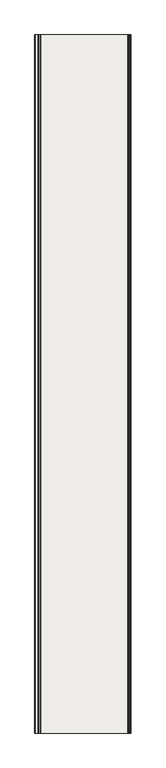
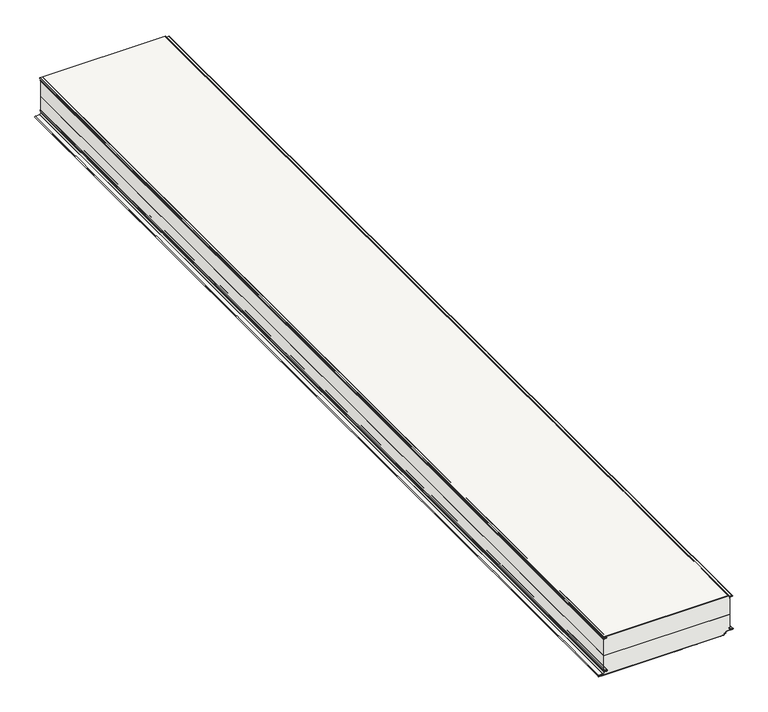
"""IFC4 building model written with IfcOpenShell, lengths in millimetres: covering geometry, Wall sandwich panel SPW-H CORE WOOL (single sheet) : -."""

from ifc_helpers import new_model, si_unit, point, frame, frame_2d, origin, place, context, project, spatial, polyline, circle_curve, trimmed, segment, composite_curve, outline, extrude, source, transform, mapped, element, save
from ifc_brep_helpers import plane_surface, cylinder_surface, revolved_surface, advanced_brep


def covering_b233c857(model_context):
    return source(origin(), model_context, "Body", "SolidModel", [
        extrude(outline(composite_curve([segment(polyline([(-240.0, -775.4098003), (-239.6, -774.0275239), (-239.6, -729.8098003), (-240.0, -728.4275239), (-240.0, -684.2098003), (-239.6, -682.8275239), (-239.6, -638.6098003), (-240.0, -637.2275239), (-240.0, -593.0098003), (-239.6, -591.6275239), (-239.6, -547.4098003), (-240.0, -546.0275239), (-240.0, -501.8098003), (-239.6, -500.4275239), (-239.6, -456.2098003), (-240.0, -454.8275239), (-240.0, -410.6098003), (-239.6, -409.2275239), (-239.6, -365.0098003), (-240.0, -363.6275239), (-240.0, -319.4098003), (-239.6, -318.0275239), (-239.6, -273.8098003), (-240.0, -272.4275239), (-240.0, -228.2098003), (-239.6, -226.8275239), (-239.6, -182.6098003), (-240.0, -181.2275239), (-240.0, -137.0098003), (-239.6, -135.6275239), (-239.6, -91.4098003), (-240.0, -90.0275239), (-240.0, -73.4477183)]), True, "CONTINUOUS"), segment(trimmed(circle_curve(frame_2d((-235.0, -73.4477183)), 5.0), [point((-240.0, -73.4477183))], [point((-235.0, -68.4477183))], False, "CARTESIAN"), True, "CONTINUOUS"), segment(polyline([(-235.0, -68.4477183), (-232.008232, -68.4477183)]), True, "CONTINUOUS"), segment(trimmed(circle_curve(frame_2d((-232.008232, -66.4315256)), 2.0161927), [point((-232.008232, -68.4477183))], [point((-229.9920393, -66.4315256))], True, "CARTESIAN"), True, "CONTINUOUS"), segment(polyline([(-229.9920393, -66.4315256), (-229.9920393, -60.9141788)]), True, "CONTINUOUS"), segment(trimmed(circle_curve(frame_2d((-227.4959919, -60.9141788)), 2.4960474), [point((-229.9920393, -60.9141788))], [point((-227.9326372, -58.4566204))], False, "CARTESIAN"), True, "CONTINUOUS"), segment(polyline([(-227.9326372, -58.4566204), (-221.6533464, -57.3460478)]), True, "CONTINUOUS"), segment(trimmed(circle_curve(frame_2d((-222.0004127, -55.3763918)), 2.0), [point((-221.6533464, -57.3460478))], [point((-220.0004127, -55.3763918))], True, "CARTESIAN"), True, "CONTINUOUS"), segment(polyline([(-220.0004127, -55.3763918), (-220.0004127, -18.8763918)]), True, "CONTINUOUS"), segment(trimmed(circle_curve(frame_2d((-217.0004127, -18.8763918)), 3.0), [point((-220.0004127, -18.8763918))], [point((-214.0045241, -18.7193839))], False, "CARTESIAN"), True, "CONTINUOUS"), segment(polyline([(-214.0045241, -18.7193839), (-213.2754556, -32.6308399)]), True, "CONTINUOUS"), segment(trimmed(circle_curve(frame_2d((-210.7788817, -32.5)), 2.5), [point((-213.2754556, -32.6308399))], [point((-210.7788817, -35.0))], True, "CARTESIAN"), True, "CONTINUOUS"), segment(polyline([(-210.7788817, -35.0), (-201.4988817, -35.0), (-201.4988817, -36.0), (-210.7788817, -36.0)]), True, "CONTINUOUS"), segment(trimmed(circle_curve(frame_2d((-210.7788817, -32.5)), 3.5), [point((-210.7788817, -36.0))], [point((-214.2740851, -32.6831758))], False, "CARTESIAN"), True, "CONTINUOUS"), segment(polyline([(-214.2740851, -32.6831758), (-215.0031536, -18.7717199)]), True, "CONTINUOUS"), segment(trimmed(circle_curve(frame_2d((-217.0004127, -18.8763918)), 2.0), [point((-215.0031536, -18.7717199))], [point((-219.0004127, -18.8763918))], True, "CARTESIAN"), True, "CONTINUOUS"), segment(polyline([(-219.0004127, -18.8763918), (-219.0004127, -55.3763918)]), True, "CONTINUOUS"), segment(trimmed(circle_curve(frame_2d((-222.0004127, -55.3763918)), 3.0), [point((-219.0004127, -55.3763918))], [point((-221.4794682, -58.330815))], False, "CARTESIAN"), True, "CONTINUOUS"), segment(polyline([(-221.4794682, -58.330815), (-227.7580406, -59.4412605)]), True, "CONTINUOUS"), segment(trimmed(circle_curve(frame_2d((-227.4959919, -60.9141788)), 1.4960474), [point((-227.7580406, -59.4412605))], [point((-228.9920393, -60.9141788))], True, "CARTESIAN"), True, "CONTINUOUS"), segment(polyline([(-228.9920393, -60.9141788), (-228.9920393, -66.4315256)]), True, "CONTINUOUS"), segment(trimmed(circle_curve(frame_2d((-232.008232, -66.4315256)), 3.0161927), [point((-228.9920393, -66.4315256))], [point((-232.008232, -69.4477183))], False, "CARTESIAN"), True, "CONTINUOUS"), segment(polyline([(-232.008232, -69.4477183), (-235.0, -69.4477183)]), True, "CONTINUOUS"), segment(trimmed(circle_curve(frame_2d((-235.0, -73.4477183)), 4.0), [point((-235.0, -69.4477183))], [point((-239.0, -73.4477183))], True, "CARTESIAN"), True, "CONTINUOUS"), segment(polyline([(-239.0, -73.4477183), (-239.0, -785.0), (-240.0, -785.0), (-240.0, -775.4098003)]), True, "CONTINUOUS")], self_intersect=False)), frame((0.0, -5800.0, 0.0), z_axis=(0.0, 1.0, 0.0), x_axis=(0.0, 0.0, 1.0)), (0.0, 0.0, 1.0), 5800.0),
        extrude(outline(composite_curve([segment(polyline([(-239.0, -785.0), (-240.0, -785.0), (-240.0, -73.4477183)]), True, "CONTINUOUS"), segment(trimmed(circle_curve(frame_2d((-235.0, -73.4477183)), 5.0), [point((-240.0, -73.4477183))], [point((-235.0, -68.4477183))], False, "CARTESIAN"), True, "CONTINUOUS"), segment(polyline([(-235.0, -68.4477183), (-232.008232, -68.4477183)]), True, "CONTINUOUS"), segment(trimmed(circle_curve(frame_2d((-232.008232, -66.4315256)), 2.0161927), [point((-232.008232, -68.4477183))], [point((-229.9920393, -66.4315256))], True, "CARTESIAN"), True, "CONTINUOUS"), segment(polyline([(-229.9920393, -66.4315256), (-229.9920393, -60.9141788)]), True, "CONTINUOUS"), segment(trimmed(circle_curve(frame_2d((-227.4959919, -60.9141788)), 2.4960474), [point((-229.9920393, -60.9141788))], [point((-227.9326372, -58.4566204))], False, "CARTESIAN"), True, "CONTINUOUS"), segment(polyline([(-227.9326372, -58.4566204), (-221.6533464, -57.3460478)]), True, "CONTINUOUS"), segment(trimmed(circle_curve(frame_2d((-222.0004127, -55.3763918)), 2.0), [point((-221.6533464, -57.3460478))], [point((-220.0004127, -55.3763918))], True, "CARTESIAN"), True, "CONTINUOUS"), segment(polyline([(-220.0004127, -55.3763918), (-220.0004127, -18.8763918)]), True, "CONTINUOUS"), segment(trimmed(circle_curve(frame_2d((-217.0004127, -18.8763918)), 3.0), [point((-220.0004127, -18.8763918))], [point((-214.0045241, -18.7193839))], False, "CARTESIAN"), True, "CONTINUOUS"), segment(polyline([(-214.0045241, -18.7193839), (-213.2754556, -32.6308399)]), True, "CONTINUOUS"), segment(trimmed(circle_curve(frame_2d((-210.7788817, -32.5)), 2.5), [point((-213.2754556, -32.6308399))], [point((-210.7788817, -35.0))], True, "CARTESIAN"), True, "CONTINUOUS"), segment(polyline([(-210.7788817, -35.0), (-201.4988817, -35.0), (-201.4988817, -36.0), (-210.7788817, -36.0)]), True, "CONTINUOUS"), segment(trimmed(circle_curve(frame_2d((-210.7788817, -32.5)), 3.5), [point((-210.7788817, -36.0))], [point((-214.2740851, -32.6831758))], False, "CARTESIAN"), True, "CONTINUOUS"), segment(polyline([(-214.2740851, -32.6831758), (-215.0031536, -18.7717199)]), True, "CONTINUOUS"), segment(trimmed(circle_curve(frame_2d((-217.0004127, -18.8763918)), 2.0), [point((-215.0031536, -18.7717199))], [point((-219.0004127, -18.8763918))], True, "CARTESIAN"), True, "CONTINUOUS"), segment(polyline([(-219.0004127, -18.8763918), (-219.0004127, -55.3763918)]), True, "CONTINUOUS"), segment(trimmed(circle_curve(frame_2d((-222.0004127, -55.3763918)), 3.0), [point((-219.0004127, -55.3763918))], [point((-221.4794682, -58.330815))], False, "CARTESIAN"), True, "CONTINUOUS"), segment(polyline([(-221.4794682, -58.330815), (-227.7580406, -59.4412605)]), True, "CONTINUOUS"), segment(trimmed(circle_curve(frame_2d((-227.4959919, -60.9141788)), 1.4960474), [point((-227.7580406, -59.4412605))], [point((-228.9920393, -60.9141788))], True, "CARTESIAN"), True, "CONTINUOUS"), segment(polyline([(-228.9920393, -60.9141788), (-228.9920393, -66.4315256)]), True, "CONTINUOUS"), segment(trimmed(circle_curve(frame_2d((-232.008232, -66.4315256)), 3.0161927), [point((-228.9920393, -66.4315256))], [point((-232.008232, -69.4477183))], False, "CARTESIAN"), True, "CONTINUOUS"), segment(polyline([(-232.008232, -69.4477183), (-235.0, -69.4477183)]), True, "CONTINUOUS"), segment(trimmed(circle_curve(frame_2d((-235.0, -73.4477183)), 4.0), [point((-235.0, -69.4477183))], [point((-239.0, -73.4477183))], True, "CARTESIAN"), True, "CONTINUOUS"), segment(polyline([(-239.0, -73.4477183), (-239.0, -785.0)]), True, "CONTINUOUS")], self_intersect=False)), frame((0.0, -5800.0, 0.0), z_axis=(0.0, 1.0, 0.0), x_axis=(0.0, 0.0, 1.0)), (0.0, 0.0, 1.0), 5800.0),
        extrude(outline(composite_curve([segment(polyline([(-15.1088808, -783.0523342), (-14.5423642, -772.2421915)]), True, "CONTINUOUS"), segment(trimmed(circle_curve(frame_2d((-9.549216, -772.5038626)), 5.0), [point((-14.5423642, -772.2421915))], [point((-4.5522622, -772.3293564))], False, "CARTESIAN"), True, "CONTINUOUS"), segment(polyline([(-4.5522622, -772.3293564), (-4.0495702, -786.7238513)]), True, "CONTINUOUS"), segment(trimmed(circle_curve(frame_2d((-2.5266447, -786.6173526)), 1.5266447), [point((-4.0495702, -786.7238513))], [point((-1.0, -786.6173526))], True, "CARTESIAN"), True, "CONTINUOUS"), segment(polyline([(-1.0, -786.6173526), (-1.0, -785.0), (0.0, -785.0), (0.0, -786.6173526)]), True, "CONTINUOUS"), segment(trimmed(circle_curve(frame_2d((-2.5266447, -786.6173526)), 2.5266447), [point((0.0, -786.6173526))], [point((-5.0484281, -786.7740115))], False, "CARTESIAN"), True, "CONTINUOUS"), segment(polyline([(-5.0484281, -786.7740115), (-5.551653, -772.3642576)]), True, "CONTINUOUS"), segment(trimmed(circle_curve(frame_2d((-9.549216, -772.5038626)), 4.0), [point((-5.551653, -772.3642576))], [point((-13.5437346, -772.2945257))], True, "CARTESIAN"), True, "CONTINUOUS"), segment(polyline([(-13.5437346, -772.2945257), (-14.1102512, -783.1046684)]), True, "CONTINUOUS"), segment(trimmed(circle_curve(frame_2d((-16.1075105, -783.0)), 2.0), [point((-14.1102512, -783.1046684))], [point((-16.1075105, -785.0))], False, "CARTESIAN"), True, "CONTINUOUS"), segment(polyline([(-16.1075105, -785.0), (-18.1075105, -785.0), (-18.1075105, -784.0), (-16.1075105, -784.0)]), True, "CONTINUOUS"), segment(trimmed(circle_curve(frame_2d((-16.1075105, -783.0)), 1.0), [point((-16.1075105, -784.0))], [point((-15.1088808, -783.0523342))], True, "CARTESIAN"), True, "CONTINUOUS")], self_intersect=False)), frame((0.0, -5800.0, 0.0), z_axis=(0.0, 1.0, 0.0), x_axis=(0.0, 0.0, 1.0)), (0.0, 0.0, 1.0), 5800.0),
        advanced_brep(
        [(-780.5824878, -5800.0, -222.0150874), (-769.3324879, -5800.0, -221.9992045), (-769.0709825, -5800.0, -212.0060522), (-783.2742211, -5800.0, -211.2619406), (-784.0, -5800.0, -210.4971426), (-784.0, -5800.0, -201.4971426), (-785.0, -5800.0, -201.4971426), (-785.0, -5800.0, -210.4971426), (-783.3265396, -5800.0, -212.260571), (-769.123301, -5800.0, -213.0046827), (-769.3331636, -5800.0, -220.9992044), (-780.6396582, -5800.0, -221.0151671), (-782.7899391, -5800.0, -222.27871), (-788.1496634, -5800.0, -229.933474), (-790.1975249, -5800.0, -230.9995686), (-813.4143745, -5800.0, -230.9999738), (-813.414296, -5800.0, -240.0), (-785.0, -5800.0, -240.0), (-785.0, -5800.0, -239.0), (-813.414296, -5800.0, -239.0), (-813.4143571, -5800.0, -232.0), (-790.1975075, -5800.0, -231.9995686), (-787.3305014, -5800.0, -230.5070361), (-781.9707771, -5800.0, -222.8522722), (-780.5824878, 0.0, -222.0150874), (-781.9707771, 0.0, -222.8522722), (-787.3305014, 0.0, -230.5070361), (-790.1975075, 0.0, -231.9995686), (-813.4143571, 0.0, -231.9999738), (-813.414296, 0.0, -239.0), (-785.0, 0.0, -239.0), (-785.0, 0.0, -240.0), (-813.414296, 0.0, -240.0), (-813.4143745, 0.0, -231.0), (-790.1975249, 0.0, -230.9995686), (-788.1496634, 0.0, -229.933474), (-782.7899391, 0.0, -222.27871), (-780.6396582, 0.0, -221.0151671), (-769.3331636, 0.0, -220.9992044), (-769.123301, 0.0, -213.0046827), (-783.3265396, 0.0, -212.260571), (-785.0, 0.0, -210.4971426), (-785.0, 0.0, -201.4971426), (-784.0, 0.0, -201.4971426), (-784.0, 0.0, -210.4971426), (-783.2742211, 0.0, -211.2619406), (-769.0709825, 0.0, -212.0060522), (-769.3324879, 0.0, -221.9992045)],
        [
            (0, 1),
            (1, 2, circle_curve(frame((-769.3325751, -5800.0, -216.9992045), z_axis=(0.0, -1.0, 0.0), x_axis=(1.0, 0.0, 0.0)), 5.0)),
            (2, 3),
            (3, 4, circle_curve(frame((-783.2341531, -5800.0, -210.4971426), z_axis=(0.0, 1.0, 0.0), x_axis=(1.0, 0.0, 0.0)), 0.7658469)),
            (4, 5),
            (5, 6),
            (6, 7),
            (7, 8, circle_curve(frame((-783.2341531, -5800.0, -210.4971426), z_axis=(0.0, -1.0, 0.0), x_axis=(1.0, 0.0, 0.0)), 1.7658469)),
            (8, 9),
            (9, 10, circle_curve(frame((-769.3325751, -5800.0, -216.9992045), z_axis=(0.0, 1.0, 0.0), x_axis=(1.0, 0.0, 0.0)), 4.0)),
            (10, 11),
            (11, 12, circle_curve(frame((-780.3324529, -5800.0, -223.9993964), z_axis=(0.0, -1.0, 0.0), x_axis=(1.0, 0.0, 0.0)), 3.0)),
            (12, 13),
            (13, 14, circle_curve(frame((-790.1975686, -5800.0, -228.4995686), z_axis=(0.0, 1.0, 0.0), x_axis=(1.0, 0.0, 0.0)), 2.5)),
            (14, 15),
            (15, 16, circle_curve(frame((-813.414296, -5800.0, -235.5), z_axis=(0.0, -1.0, 0.0), x_axis=(1.0, 0.0, 0.0)), 4.5)),
            (16, 17),
            (17, 18),
            (18, 19),
            (19, 20, circle_curve(frame((-813.414296, -5800.0, -235.5), z_axis=(0.0, 1.0, 0.0), x_axis=(1.0, 0.0, 0.0)), 3.5)),
            (20, 21),
            (21, 22, circle_curve(frame((-790.1975686, -5800.0, -228.4995686), z_axis=(0.0, -1.0, 0.0), x_axis=(1.0, 0.0, 0.0)), 3.5)),
            (22, 23),
            (23, 0, circle_curve(frame((-780.3324529, -5800.0, -223.9993964), z_axis=(0.0, 1.0, 0.0), x_axis=(1.0, 0.0, 0.0)), 2.0)),
            (24, 25, circle_curve(frame((-780.3324529, 0.0, -223.9993964), z_axis=(0.0, -1.0, 0.0), x_axis=(1.0, 0.0, 0.0)), 2.0)),
            (25, 26),
            (26, 27, circle_curve(frame((-790.1975686, 0.0, -228.4995686), z_axis=(0.0, 1.0, 0.0), x_axis=(1.0, 0.0, 0.0)), 3.5)),
            (27, 28),
            (28, 29, circle_curve(frame((-813.414296, 0.0, -235.5), z_axis=(0.0, -1.0, 0.0), x_axis=(1.0, 0.0, 0.0)), 3.5)),
            (29, 30),
            (30, 31),
            (31, 32),
            (32, 33, circle_curve(frame((-813.414296, 0.0, -235.5), z_axis=(0.0, 1.0, 0.0), x_axis=(1.0, 0.0, 0.0)), 4.5)),
            (33, 34),
            (34, 35, circle_curve(frame((-790.1975686, 0.0, -228.4995686), z_axis=(0.0, -1.0, 0.0), x_axis=(1.0, 0.0, 0.0)), 2.5)),
            (35, 36),
            (36, 37, circle_curve(frame((-780.3324529, 0.0, -223.9993964), z_axis=(0.0, 1.0, 0.0), x_axis=(1.0, 0.0, 0.0)), 3.0)),
            (37, 38),
            (38, 39, circle_curve(frame((-769.3325751, 0.0, -216.9992045), z_axis=(0.0, -1.0, 0.0), x_axis=(1.0, 0.0, 0.0)), 4.0)),
            (39, 40),
            (40, 41, circle_curve(frame((-783.2341531, 0.0, -210.4971426), z_axis=(0.0, 1.0, 0.0), x_axis=(1.0, 0.0, 0.0)), 1.7658469)),
            (41, 42),
            (42, 43),
            (43, 44),
            (44, 45, circle_curve(frame((-783.2341531, 0.0, -210.4971426), z_axis=(0.0, -1.0, 0.0), x_axis=(1.0, 0.0, 0.0)), 0.7658469)),
            (45, 46),
            (46, 47, circle_curve(frame((-769.3325751, 0.0, -216.9992045), z_axis=(0.0, 1.0, 0.0), x_axis=(1.0, 0.0, 0.0)), 5.0)),
            (47, 24),
            (0, 24),
            (47, 1),
            (46, 2),
            (45, 3),
            (44, 4),
            (43, 5),
            (42, 6),
            (41, 7),
            (40, 8),
            (39, 9),
            (38, 10),
            (37, 11),
            (36, 12),
            (35, 13),
            (34, 14),
            (33, 15),
            (32, 16),
            (31, 17),
            (30, 18),
            (29, 19),
            (28, 20),
            (27, 21),
            (26, 22),
            (25, 23),
        ],
        [
            plane_surface(frame((-785.0, -5800.0, -240.0), z_axis=(0.0, -1.0, 0.0), x_axis=(0.0, 0.0, -1.0))),
            plane_surface(frame((-785.0, 0.0, -240.0), z_axis=(0.0, 1.0, 0.0), x_axis=(0.0, 0.0, -1.0))),
            plane_surface(frame((-780.5824878, -5800.0, -222.0150874), z_axis=(0.001411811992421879, 0.0, -0.9999990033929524), x_axis=(0.0, 1.0, 0.0))),
            cylinder_surface(frame((-769.3325751, -5800.0, -216.9992045), z_axis=(0.0, -1.0, 0.0), x_axis=(1.0, 0.0, 0.0)), 5.0),
            plane_surface(frame((-769.0709825, -5800.0, -212.0060522), z_axis=(0.052318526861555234, 0.0, 0.998630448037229), x_axis=(0.0, 1.0, 0.0))),
            revolved_surface(polyline([(-782.4683061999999, 0.0, -210.4971426), (-782.4683061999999, -5800.0, -210.4971426)]), (-783.2341531, -5800.0, -210.4971426), (0.0, 1.0, 0.0)),
            plane_surface(frame((-784.0, -5800.0, -210.4971426), z_axis=(1.0, 0.0, 0.0), x_axis=(0.0, 1.0, 0.0))),
            plane_surface(frame((-784.0, -5800.0, -201.4971426), z_axis=(0.0, 0.0, 1.0), x_axis=(0.0, 1.0, 0.0))),
            plane_surface(frame((-785.0, -5800.0, -201.4971426), z_axis=(-1.0, 0.0, 0.0), x_axis=(0.0, 1.0, 0.0))),
            cylinder_surface(frame((-783.2341531, -5800.0, -210.4971426), z_axis=(0.0, -1.0, 0.0), x_axis=(1.0, 0.0, 0.0)), 1.7658469),
            plane_surface(frame((-783.3265396, -5800.0, -212.260571), z_axis=(-0.052318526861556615, 0.0, -0.998630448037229), x_axis=(0.0, 1.0, 0.0))),
            revolved_surface(polyline([(-765.3325751, 0.0, -216.9992045), (-765.3325751, -5800.0, -216.9992045)]), (-769.3325751, -5800.0, -216.9992045), (0.0, 1.0, 0.0)),
            plane_surface(frame((-769.3331636, -5800.0, -220.9992044), z_axis=(-0.0014118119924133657, 0.0, 0.9999990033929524), x_axis=(0.0, 1.0, 0.0))),
            cylinder_surface(frame((-780.3324529, -5800.0, -223.9993964), z_axis=(0.0, -1.0, 0.0), x_axis=(1.0, 0.0, 0.0)), 3.0),
            plane_surface(frame((-782.7899391, -5800.0, -222.27871), z_axis=(-0.8191620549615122, 0.0, 0.5735621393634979), x_axis=(0.0, 1.0, 0.0))),
            revolved_surface(polyline([(-787.6975686, 0.0, -228.4995686), (-787.6975686, -5800.0, -228.4995686)]), (-790.1975686, -5800.0, -228.4995686), (0.0, 1.0, 0.0)),
            plane_surface(frame((-790.1975249, -5800.0, -230.9995686), z_axis=(-1.7453292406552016e-05, 0.0, 0.9999999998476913), x_axis=(0.0, 1.0, 0.0))),
            cylinder_surface(frame((-813.414296, -5800.0, -235.5), z_axis=(0.0, -1.0, 0.0), x_axis=(1.0, 0.0, 0.0)), 4.5),
            plane_surface(frame((-813.414296, -5800.0, -240.0), z_axis=(0.0, 0.0, -1.0), x_axis=(0.0, 1.0, 0.0))),
            plane_surface(frame((-785.0, -5800.0, -240.0), z_axis=(1.0, 0.0, 0.0), x_axis=(0.0, 1.0, 0.0))),
            plane_surface(frame((-785.0, -5800.0, -239.0), z_axis=(0.0, 0.0, 1.0), x_axis=(0.0, 1.0, 0.0))),
            revolved_surface(polyline([(-809.914296, 0.0, -235.5), (-809.914296, -5800.0, -235.5)]), (-813.414296, -5800.0, -235.5), (0.0, 1.0, 0.0)),
            plane_surface(frame((-813.4143571, -5800.0, -231.9999738), z_axis=(1.7453292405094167e-05, 0.0, -0.9999999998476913), x_axis=(0.0, 1.0, 0.0))),
            cylinder_surface(frame((-790.1975686, -5800.0, -228.4995686), z_axis=(0.0, -1.0, 0.0), x_axis=(1.0, 0.0, 0.0)), 3.5),
            plane_surface(frame((-787.3305014, -5800.0, -230.5070361), z_axis=(0.8191620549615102, 0.0, -0.5735621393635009), x_axis=(0.0, 1.0, 0.0))),
            revolved_surface(polyline([(-778.3324529, 0.0, -223.9993964), (-778.3324529, -5800.0, -223.9993964)]), (-780.3324529, -5800.0, -223.9993964), (0.0, 1.0, 0.0)),
        ],
        [
            (0, [[1, 2, 3, 4, 5, 6, 7, 8, 9, 10, 11, 12, 13, 14, 15, 16, 17, 18, 19, 20, 21, 22, 23, 24]]),
            (1, [[25, 26, 27, 28, 29, 30, 31, 32, 33, 34, 35, 36, 37, 38, 39, 40, 41, 42, 43, 44, 45, 46, 47, 48]]),
            (2, [[-1, 49, -48, 50]]),
            (3, [[-2, -50, -47, 51]]),
            (4, [[-3, -51, -46, 52]]),
            (5, [[-4, -52, -45, 53]]),
            (6, [[-5, -53, -44, 54]]),
            (7, [[-6, -54, -43, 55]]),
            (8, [[-7, -55, -42, 56]]),
            (9, [[-8, -56, -41, 57]]),
            (10, [[-9, -57, -40, 58]]),
            (11, [[-10, -58, -39, 59]]),
            (12, [[-11, -59, -38, 60]]),
            (13, [[-12, -60, -37, 61]]),
            (14, [[-13, -61, -36, 62]]),
            (15, [[-14, -62, -35, 63]]),
            (16, [[-15, -63, -34, 64]]),
            (17, [[-16, -64, -33, 65]]),
            (18, [[-17, -65, -32, 66]]),
            (19, [[-18, -66, -31, 67]]),
            (20, [[-19, -67, -30, 68]]),
            (21, [[-20, -68, -29, 69]]),
            (22, [[-21, -69, -28, 70]]),
            (23, [[-22, -70, -27, 71]]),
            (24, [[-23, -71, -26, 72]]),
            (25, [[-24, -72, -25, -49]]),
        ],
    ),
        extrude(outline(composite_curve([segment(polyline([(-1.0, -785.0), (-1.0, -42.1186621)]), True, "CONTINUOUS"), segment(trimmed(circle_curve(frame_2d((-2.5, -42.1186621)), 1.5), [point((-1.0, -42.1186621))], [point((-2.5, -40.6186621))], True, "CARTESIAN"), True, "CONTINUOUS"), segment(polyline([(-2.5, -40.6186621), (-4.3, -40.6186621)]), True, "CONTINUOUS"), segment(trimmed(circle_curve(frame_2d((-4.3, -38.1186621)), 2.5), [point((-4.3, -40.6186621))], [point((-6.7984771, -38.2059108))], False, "CARTESIAN"), True, "CONTINUOUS"), segment(polyline([(-6.7984771, -38.2059108), (-7.363951, -22.012857)]), True, "CONTINUOUS"), segment(trimmed(circle_curve(frame_2d((-9.3627326, -22.082656)), 2.0), [point((-7.363951, -22.012857))], [point((-11.3599917, -21.9779841))], True, "CARTESIAN"), True, "CONTINUOUS"), segment(polyline([(-11.3599917, -21.9779841), (-11.921027, -32.6831758)]), True, "CONTINUOUS"), segment(trimmed(circle_curve(frame_2d((-15.4162304, -32.5)), 3.5), [point((-11.921027, -32.6831758))], [point((-15.4162304, -36.0))], False, "CARTESIAN"), True, "CONTINUOUS"), segment(polyline([(-15.4162304, -36.0), (-18.1062304, -36.0), (-18.1062304, -35.0), (-15.4162304, -35.0)]), True, "CONTINUOUS"), segment(trimmed(circle_curve(frame_2d((-15.4162304, -32.5)), 2.5), [point((-15.4162304, -35.0))], [point((-12.9196566, -32.6308399))], True, "CARTESIAN"), True, "CONTINUOUS"), segment(polyline([(-12.9196566, -32.6308399), (-12.3586212, -21.9256482)]), True, "CONTINUOUS"), segment(trimmed(circle_curve(frame_2d((-9.3627326, -22.082656)), 3.0), [point((-12.3586212, -21.9256482))], [point((-6.3645601, -21.9779575))], False, "CARTESIAN"), True, "CONTINUOUS"), segment(polyline([(-6.3645601, -21.9779575), (-5.7990862, -38.1710114)]), True, "CONTINUOUS"), segment(trimmed(circle_curve(frame_2d((-4.3, -38.1186621)), 1.5), [point((-5.7990862, -38.1710114))], [point((-4.3, -39.6186621))], True, "CARTESIAN"), True, "CONTINUOUS"), segment(polyline([(-4.3, -39.6186621), (-2.5, -39.6186621)]), True, "CONTINUOUS"), segment(trimmed(circle_curve(frame_2d((-2.5, -42.1186621)), 2.5), [point((-2.5, -39.6186621))], [point((0.0, -42.1186621))], False, "CARTESIAN"), True, "CONTINUOUS"), segment(polyline([(0.0, -42.1186621), (0.0, -785.0), (-1.0, -785.0)]), True, "CONTINUOUS")], self_intersect=False)), frame((0.0, -5800.0, 0.0), z_axis=(0.0, 1.0, 0.0), x_axis=(0.0, 0.0, 1.0)), (0.0, 0.0, 1.0), 5800.0),
        advanced_brep(
        [(-813.414296, -5800.0, -239.0), (-785.0, -5800.0, -239.0), (-73.4477183, -5800.0, -239.0), (-69.4477183, -5800.0, -235.0), (-69.4477183, -5800.0, -232.0078193), (-66.4315256, -5800.0, -228.9916266), (-60.9141788, -5800.0, -228.9916266), (-59.4412605, -5800.0, -227.7576279), (-58.330815, -5800.0, -221.4790555), (-55.3763918, -5800.0, -219.0), (-18.8763918, -5800.0, -219.0), (-18.7717199, -5800.0, -215.0027409), (-32.6831758, -5800.0, -214.2736724), (-36.0, -5800.0, -210.778469), (-36.0, -5800.0, -120.0), (-784.0, -5800.0, -120.0), (-784.0, -5800.0, -210.4973345), (-783.2742211, -5800.0, -211.2621326), (-769.0709825, -5800.0, -212.0062442), (-769.3324879, -5800.0, -221.9993964), (-780.3324878, -5800.0, -221.9993964), (-781.9707771, -5800.0, -222.8522722), (-787.3305014, -5800.0, -230.5070361), (-790.1975075, -5800.0, -231.9995686), (-813.4143571, -5800.0, -231.9995686), (-785.0, 0.0, -239.0), (-813.414296, 0.0, -239.0), (-813.4143571, 0.0, -232.0), (-790.1975075, 0.0, -231.9995686), (-787.3305014, 0.0, -230.5070361), (-781.9707771, 0.0, -222.8522722), (-780.3324878, 0.0, -221.9993964), (-769.3324879, 0.0, -221.9993964), (-769.0709825, 0.0, -212.0062442), (-783.2742211, 0.0, -211.2621326), (-784.0, 0.0, -210.4973345), (-784.0, 0.0, -120.0), (-36.0, 0.0, -120.0), (-36.0, 0.0, -210.778469), (-32.6831758, 0.0, -214.2736724), (-18.7717199, 0.0, -215.0027409), (-18.8763918, 0.0, -219.0), (-55.3763918, 0.0, -219.0), (-58.330815, 0.0, -221.4790555), (-59.4412605, 0.0, -227.7576279), (-60.9141788, 0.0, -228.9916266), (-66.4315256, 0.0, -228.9916266), (-69.4477183, 0.0, -232.0078193), (-69.4477183, 0.0, -235.0), (-73.4477183, 0.0, -239.0)],
        [
            (0, 1),
            (1, 2),
            (2, 3, circle_curve(frame((-73.4477183, -5800.0, -235.0), z_axis=(0.0, -1.0, 0.0), x_axis=(-1.0, 0.0, 0.0)), 4.0)),
            (3, 4),
            (4, 5, circle_curve(frame((-66.4315256, -5800.0, -232.0078193), z_axis=(0.0, 1.0, 0.0), x_axis=(-1.0, 0.0, 0.0)), 3.0161927)),
            (5, 6),
            (6, 7, circle_curve(frame((-60.9141788, -5800.0, -227.4955792), z_axis=(0.0, -1.0, 0.0), x_axis=(-1.0, 0.0, 0.0)), 1.4960474)),
            (7, 8),
            (8, 9, circle_curve(frame((-55.3763918, -5800.0, -222.0), z_axis=(0.0, 1.0, 0.0), x_axis=(-1.0, 0.0, 0.0)), 3.0)),
            (9, 10),
            (10, 11, circle_curve(frame((-18.8763918, -5800.0, -217.0), z_axis=(0.0, -1.0, 0.0), x_axis=(-1.0, 0.0, 0.0)), 2.0)),
            (11, 12),
            (12, 13, circle_curve(frame((-32.5, -5800.0, -210.778469), z_axis=(0.0, 1.0, 0.0), x_axis=(-1.0, 0.0, 0.0)), 3.5)),
            (13, 14),
            (14, 15),
            (15, 16),
            (16, 17, circle_curve(frame((-783.2341531, -5800.0, -210.4973345), z_axis=(0.0, -1.0, 0.0), x_axis=(-1.0, 0.0, 0.0)), 0.7658469)),
            (17, 18),
            (18, 19, circle_curve(frame((-769.3325751, -5800.0, -216.9993964), z_axis=(0.0, 1.0, 0.0), x_axis=(-1.0, 0.0, 0.0)), 5.0)),
            (19, 20),
            (20, 21, circle_curve(frame((-780.3324529, -5800.0, -223.9993964), z_axis=(0.0, -1.0, 0.0), x_axis=(-1.0, 0.0, 0.0)), 2.0)),
            (21, 22),
            (22, 23, circle_curve(frame((-790.1975686, -5800.0, -228.4995686), z_axis=(0.0, 1.0, 0.0), x_axis=(-1.0, 0.0, 0.0)), 3.5)),
            (23, 24),
            (24, 0, circle_curve(frame((-813.414296, -5800.0, -235.5), z_axis=(0.0, -1.0, 0.0), x_axis=(-1.0, 0.0, 0.0)), 3.5)),
            (25, 26),
            (26, 27, circle_curve(frame((-813.414296, 0.0, -235.5), z_axis=(0.0, 1.0, 0.0), x_axis=(-1.0, 0.0, 0.0)), 3.5)),
            (27, 28),
            (28, 29, circle_curve(frame((-790.1975686, 0.0, -228.4995686), z_axis=(0.0, -1.0, 0.0), x_axis=(-1.0, 0.0, 0.0)), 3.5)),
            (29, 30),
            (30, 31, circle_curve(frame((-780.3324529, 0.0, -223.9993964), z_axis=(0.0, 1.0, 0.0), x_axis=(-1.0, 0.0, 0.0)), 2.0)),
            (31, 32),
            (32, 33, circle_curve(frame((-769.3325751, 0.0, -216.9993964), z_axis=(0.0, -1.0, 0.0), x_axis=(-1.0, 0.0, 0.0)), 5.0)),
            (33, 34),
            (34, 35, circle_curve(frame((-783.2341531, 0.0, -210.4973345), z_axis=(0.0, 1.0, 0.0), x_axis=(-1.0, 0.0, 0.0)), 0.7658469)),
            (35, 36),
            (36, 37),
            (37, 38),
            (38, 39, circle_curve(frame((-32.5, 0.0, -210.778469), z_axis=(0.0, -1.0, 0.0), x_axis=(-1.0, 0.0, 0.0)), 3.5)),
            (39, 40),
            (40, 41, circle_curve(frame((-18.8763918, 0.0, -217.0), z_axis=(0.0, 1.0, 0.0), x_axis=(-1.0, 0.0, 0.0)), 2.0)),
            (41, 42),
            (42, 43, circle_curve(frame((-55.3763918, 0.0, -222.0), z_axis=(0.0, -1.0, 0.0), x_axis=(-1.0, 0.0, 0.0)), 3.0)),
            (43, 44),
            (44, 45, circle_curve(frame((-60.9141788, 0.0, -227.4955792), z_axis=(0.0, 1.0, 0.0), x_axis=(-1.0, 0.0, 0.0)), 1.4960474)),
            (45, 46),
            (46, 47, circle_curve(frame((-66.4315256, 0.0, -232.0078193), z_axis=(0.0, -1.0, 0.0), x_axis=(-1.0, 0.0, 0.0)), 3.0161927)),
            (47, 48),
            (48, 49, circle_curve(frame((-73.4477183, 0.0, -235.0), z_axis=(0.0, 1.0, 0.0), x_axis=(-1.0, 0.0, 0.0)), 4.0)),
            (49, 25),
            (36, 15),
            (14, 37),
            (0, 26),
            (49, 2),
            (13, 38),
            (12, 39),
            (11, 40),
            (10, 41),
            (9, 42),
            (8, 43),
            (7, 44),
            (6, 45),
            (5, 46),
            (4, 47),
            (3, 48),
            (24, 27),
            (23, 28),
            (22, 29),
            (21, 30),
            (20, 31),
            (19, 32),
            (18, 33),
            (17, 34),
            (16, 35),
        ],
        [
            plane_surface(frame((-845.0, -5800.0, -120.0), z_axis=(0.0, -1.0, 0.0), x_axis=(-1.0, 0.0, 0.0))),
            plane_surface(frame((-845.0, 0.0, -120.0), z_axis=(0.0, 1.0, 0.0), x_axis=(1.0, 0.0, 0.0))),
            plane_surface(frame((25.0, -5800.0, -120.0), z_axis=(0.0, 0.0, 1.0), x_axis=(0.0, 1.0, 0.0))),
            plane_surface(frame((-845.0, -5800.0, -239.0), z_axis=(0.0, 0.0, -1.0), x_axis=(0.0, 1.0, 0.0))),
            plane_surface(frame((-36.0, -5800.0, -15.4162304), z_axis=(1.0, 0.0, 0.0), x_axis=(0.0, 1.0, 0.0))),
            revolved_surface(polyline([(-36.0, -5800.0, -210.778469), (-36.0, 0.0, -210.778469)]), (-32.5, -5800.0, -210.778469), (0.0, -1.0, 0.0)),
            plane_surface(frame((-32.6831758, -5800.0, -214.2736724), z_axis=(0.05233595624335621, 0.0, 0.9986295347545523), x_axis=(0.0, 1.0, 0.0))),
            cylinder_surface(frame((-18.8763918, -5800.0, -217.0), z_axis=(0.0, 1.0, 0.0), x_axis=(-1.0, 0.0, 0.0)), 2.0),
            plane_surface(frame((-18.8763918, -5800.0, -219.0), z_axis=(0.0, 0.0, -1.0), x_axis=(0.0, 1.0, 0.0))),
            revolved_surface(polyline([(-58.3763918, -5800.0, -222.0), (-58.3763918, 0.0, -222.0)]), (-55.3763918, -5800.0, -222.0), (0.0, -1.0, 0.0)),
            plane_surface(frame((-58.330815, -5800.0, -221.4790555), z_axis=(0.9847174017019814, 0.0, -0.1741598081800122), x_axis=(0.0, 1.0, 0.0))),
            cylinder_surface(frame((-60.9141788, -5800.0, -227.4955792), z_axis=(0.0, 1.0, 0.0), x_axis=(-1.0, 0.0, 0.0)), 1.4960474),
            plane_surface(frame((-60.9141788, -5800.0, -228.9916266), z_axis=(0.0, 0.0, -1.0), x_axis=(0.0, 1.0, 0.0))),
            revolved_surface(polyline([(-69.4477183, -5800.0, -232.0078193), (-69.4477183, 0.0, -232.0078193)]), (-66.4315256, -5800.0, -232.0078193), (0.0, -1.0, 0.0)),
            plane_surface(frame((-69.4477183, -5800.0, -232.0078193), z_axis=(1.0, 0.0, 0.0), x_axis=(0.0, 1.0, 0.0))),
            cylinder_surface(frame((-73.4477183, -5800.0, -235.0), z_axis=(0.0, 1.0, 0.0), x_axis=(-1.0, 0.0, 0.0)), 4.0),
            cylinder_surface(frame((-813.414296, -5800.0, -235.5), z_axis=(0.0, 1.0, 0.0), x_axis=(-1.0, 0.0, 0.0)), 3.5),
            plane_surface(frame((-813.4143571, -5800.0, -231.9995686), z_axis=(0.0, 0.0, 1.0), x_axis=(0.0, 1.0, 0.0))),
            revolved_surface(polyline([(-793.6975686, -5800.0, -228.4995686), (-793.6975686, 0.0, -228.4995686)]), (-790.1975686, -5800.0, -228.4995686), (0.0, -1.0, 0.0)),
            plane_surface(frame((-787.3305014, -5800.0, -230.5070361), z_axis=(-0.8191620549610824, 0.0, 0.5735621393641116), x_axis=(0.0, 1.0, 0.0))),
            cylinder_surface(frame((-780.3324529, -5800.0, -223.9993964), z_axis=(0.0, 1.0, 0.0), x_axis=(-1.0, 0.0, 0.0)), 2.0),
            plane_surface(frame((-780.3324878, -5800.0, -221.9993964), z_axis=(0.0, 0.0, 1.0), x_axis=(0.0, 1.0, 0.0))),
            revolved_surface(polyline([(-774.3325751, -5800.0, -216.9993964), (-774.3325751, 0.0, -216.9993964)]), (-769.3325751, -5800.0, -216.9993964), (0.0, -1.0, 0.0)),
            plane_surface(frame((-769.0709825, -5800.0, -212.0062442), z_axis=(-0.05231852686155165, 0.0, -0.9986304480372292), x_axis=(0.0, 1.0, 0.0))),
            cylinder_surface(frame((-783.2341531, -5800.0, -210.4973345), z_axis=(0.0, 1.0, 0.0), x_axis=(-1.0, 0.0, 0.0)), 0.7658469),
            plane_surface(frame((-784.0, -5800.0, -210.4973345), z_axis=(-1.0, 0.0, 0.0), x_axis=(0.0, 1.0, 0.0))),
        ],
        [
            (0, [[1, 2, 3, 4, 5, 6, 7, 8, 9, 10, 11, 12, 13, 14, 15, 16, 17, 18, 19, 20, 21, 22, 23, 24, 25]]),
            (1, [[26, 27, 28, 29, 30, 31, 32, 33, 34, 35, 36, 37, 38, 39, 40, 41, 42, 43, 44, 45, 46, 47, 48, 49, 50]]),
            (2, [[51, -15, 52, -37]]),
            (3, [[-1, 53, -26, -50, 54, -2]]),
            (4, [[55, -38, -52, -14]]),
            (5, [[-55, -13, 56, -39]]),
            (6, [[-56, -12, 57, -40]]),
            (7, [[-57, -11, 58, -41]]),
            (8, [[-58, -10, 59, -42]]),
            (9, [[-59, -9, 60, -43]]),
            (10, [[-60, -8, 61, -44]]),
            (11, [[-61, -7, 62, -45]]),
            (12, [[-62, -6, 63, -46]]),
            (13, [[-63, -5, 64, -47]]),
            (14, [[-64, -4, 65, -48]]),
            (15, [[-65, -3, -54, -49]]),
            (16, [[66, -27, -53, -25]]),
            (17, [[-66, -24, 67, -28]]),
            (18, [[-67, -23, 68, -29]]),
            (19, [[-68, -22, 69, -30]]),
            (20, [[-69, -21, 70, -31]]),
            (21, [[-70, -20, 71, -32]]),
            (22, [[-71, -19, 72, -33]]),
            (23, [[-72, -18, 73, -34]]),
            (24, [[-73, -17, 74, -35]]),
            (25, [[-74, -16, -51, -36]]),
        ],
    ),
        advanced_brep(
        [(-785.0, -5800.0, -1.0), (-786.6173526, -5800.0, -1.0), (-786.7238513, -5800.0, -4.0495702), (-772.3293564, -5800.0, -4.5522622), (-772.2421915, -5800.0, -14.5423642), (-783.0523342, -5800.0, -15.1088808), (-784.0, -5800.0, -16.1075105), (-784.0, -5800.0, -120.0), (-36.0, -5800.0, -120.0), (-36.0, -5800.0, -15.4162304), (-32.6831758, -5800.0, -11.921027), (-21.9779841, -5800.0, -11.3599917), (-22.012857, -5800.0, -7.363951), (-38.2059108, -5800.0, -6.7984771), (-40.6186621, -5800.0, -4.3), (-40.6186621, -5800.0, -2.5), (-42.1186621, -5800.0, -1.0), (-43.1368714, -5800.0, -1.0), (-786.6173526, 0.0, -1.0), (-785.0, 0.0, -1.0), (-43.1368714, 0.0, -1.0), (-42.1186621, 0.0, -1.0), (-40.6186621, 0.0, -2.5), (-40.6186621, 0.0, -4.3), (-38.2059108, 0.0, -6.7984771), (-22.012857, 0.0, -7.363951), (-21.9779841, 0.0, -11.3599917), (-32.6831758, 0.0, -11.921027), (-36.0, 0.0, -15.4162304), (-36.0, 0.0, -120.0), (-784.0, 0.0, -120.0), (-784.0, 0.0, -16.1075105), (-783.0523342, 0.0, -15.1088808), (-772.2421915, 0.0, -14.5423642), (-772.3293564, 0.0, -4.5522622), (-786.7238513, 0.0, -4.0495702)],
        [
            (0, 1),
            (1, 2, circle_curve(frame((-786.6173526, -5800.0, -2.5266447), z_axis=(0.0, -1.0, 0.0), x_axis=(-1.0, 0.0, 0.0)), 1.5266447)),
            (2, 3),
            (3, 4, circle_curve(frame((-772.5038626, -5800.0, -9.549216), z_axis=(0.0, 1.0, 0.0), x_axis=(-1.0, 0.0, 0.0)), 5.0)),
            (4, 5),
            (5, 6, circle_curve(frame((-783.0, -5800.0, -16.1075105), z_axis=(0.0, -1.0, 0.0), x_axis=(-1.0, 0.0, 0.0)), 1.0)),
            (6, 7),
            (7, 8),
            (8, 9),
            (9, 10, circle_curve(frame((-32.5, -5800.0, -15.4162304), z_axis=(0.0, 1.0, 0.0), x_axis=(-1.0, 0.0, 0.0)), 3.5)),
            (10, 11),
            (11, 12, circle_curve(frame((-22.082656, -5800.0, -9.3627326), z_axis=(0.0, -1.0, 0.0), x_axis=(-1.0, 0.0, 0.0)), 2.0)),
            (12, 13),
            (13, 14, circle_curve(frame((-38.1186621, -5800.0, -4.3), z_axis=(0.0, 1.0, 0.0), x_axis=(-1.0, 0.0, 0.0)), 2.5)),
            (14, 15),
            (15, 16, circle_curve(frame((-42.1186621, -5800.0, -2.5), z_axis=(0.0, -1.0, 0.0), x_axis=(-1.0, 0.0, 0.0)), 1.5)),
            (16, 17),
            (17, 0),
            (18, 19),
            (19, 20),
            (20, 21),
            (21, 22, circle_curve(frame((-42.1186621, 0.0, -2.5), z_axis=(0.0, 1.0, 0.0), x_axis=(-1.0, 0.0, 0.0)), 1.5)),
            (22, 23),
            (23, 24, circle_curve(frame((-38.1186621, 0.0, -4.3), z_axis=(0.0, -1.0, 0.0), x_axis=(-1.0, 0.0, 0.0)), 2.5)),
            (24, 25),
            (25, 26, circle_curve(frame((-22.082656, 0.0, -9.3627326), z_axis=(0.0, 1.0, 0.0), x_axis=(-1.0, 0.0, 0.0)), 2.0)),
            (26, 27),
            (27, 28, circle_curve(frame((-32.5, 0.0, -15.4162304), z_axis=(0.0, -1.0, 0.0), x_axis=(-1.0, 0.0, 0.0)), 3.5)),
            (28, 29),
            (29, 30),
            (30, 31),
            (31, 32, circle_curve(frame((-783.0, 0.0, -16.1075105), z_axis=(0.0, 1.0, 0.0), x_axis=(-1.0, 0.0, 0.0)), 1.0)),
            (32, 33),
            (33, 34, circle_curve(frame((-772.5038626, 0.0, -9.549216), z_axis=(0.0, -1.0, 0.0), x_axis=(-1.0, 0.0, 0.0)), 5.0)),
            (34, 35),
            (35, 18, circle_curve(frame((-786.6173526, 0.0, -2.5266447), z_axis=(0.0, 1.0, 0.0), x_axis=(-1.0, 0.0, 0.0)), 1.5266447)),
            (16, 21),
            (18, 1),
            (7, 30),
            (29, 8),
            (15, 22),
            (14, 23),
            (13, 24),
            (12, 25),
            (11, 26),
            (10, 27),
            (9, 28),
            (6, 31),
            (5, 32),
            (4, 33),
            (3, 34),
            (2, 35),
        ],
        [
            plane_surface(frame((-845.0, -5800.0, -1.0), z_axis=(0.0, -1.0, 0.0), x_axis=(-1.0, 0.0, 0.0))),
            plane_surface(frame((-845.0, 0.0, -1.0), z_axis=(0.0, 1.0, 0.0), x_axis=(1.0, 0.0, 0.0))),
            plane_surface(frame((25.0, -5800.0, -1.0), z_axis=(0.0, 0.0, 1.0), x_axis=(0.0, 1.0, 0.0))),
            plane_surface(frame((-845.0, -5800.0, -120.0), z_axis=(0.0, 0.0, -1.0), x_axis=(0.0, 1.0, 0.0))),
            cylinder_surface(frame((-42.1186621, -5800.0, -2.5), z_axis=(0.0, 1.0, 0.0), x_axis=(-1.0, 0.0, 0.0)), 1.5),
            plane_surface(frame((-40.6186621, -5800.0, -2.5), z_axis=(1.0, 0.0, 0.0), x_axis=(0.0, 1.0, 0.0))),
            revolved_surface(polyline([(-40.6186621, -5800.0, -4.3), (-40.6186621, 0.0, -4.3)]), (-38.1186621, -5800.0, -4.3), (0.0, -1.0, 0.0)),
            plane_surface(frame((-38.2059108, -5800.0, -6.7984771), z_axis=(0.03489949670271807, 0.0, 0.9993908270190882), x_axis=(0.0, 1.0, 0.0))),
            cylinder_surface(frame((-22.082656, -5800.0, -9.3627326), z_axis=(0.0, 1.0, 0.0), x_axis=(-1.0, 0.0, 0.0)), 2.0),
            plane_surface(frame((-21.9779841, -5800.0, -11.3599917), z_axis=(0.05233595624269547, 0.0, -0.998629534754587), x_axis=(0.0, 1.0, 0.0))),
            revolved_surface(polyline([(-36.0, -5800.0, -15.4162304), (-36.0, 0.0, -15.4162304)]), (-32.5, -5800.0, -15.4162304), (0.0, -1.0, 0.0)),
            plane_surface(frame((-36.0, -5800.0, -15.4162304), z_axis=(1.0, 0.0, 0.0), x_axis=(0.0, 1.0, 0.0))),
            plane_surface(frame((-784.0, -5800.0, -210.4973345), z_axis=(-1.0, 0.0, 0.0), x_axis=(0.0, 1.0, 0.0))),
            cylinder_surface(frame((-783.0, -5800.0, -16.1075105), z_axis=(0.0, 1.0, 0.0), x_axis=(-1.0, 0.0, 0.0)), 1.0),
            plane_surface(frame((-783.0523342, -5800.0, -15.1088808), z_axis=(-0.05233421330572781, 0.0, 0.9986296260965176), x_axis=(0.0, 1.0, 0.0))),
            revolved_surface(polyline([(-777.5038626, -5800.0, -9.549216), (-777.5038626, 0.0, -9.549216)]), (-772.5038626, -5800.0, -9.549216), (0.0, -1.0, 0.0)),
            plane_surface(frame((-772.3293564, -5800.0, -4.5522622), z_axis=(-0.0349012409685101, 0.0, -0.9993907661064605), x_axis=(0.0, 1.0, 0.0))),
            cylinder_surface(frame((-786.6173526, -5800.0, -2.5266447), z_axis=(0.0, 1.0, 0.0), x_axis=(-1.0, 0.0, 0.0)), 1.5266447),
        ],
        [
            (0, [[1, 2, 3, 4, 5, 6, 7, 8, 9, 10, 11, 12, 13, 14, 15, 16, 17, 18]]),
            (1, [[19, 20, 21, 22, 23, 24, 25, 26, 27, 28, 29, 30, 31, 32, 33, 34, 35, 36]]),
            (2, [[-1, -18, -17, 37, -21, -20, -19, 38]]),
            (3, [[39, -30, 40, -8]]),
            (4, [[41, -22, -37, -16]]),
            (5, [[-41, -15, 42, -23]]),
            (6, [[-42, -14, 43, -24]]),
            (7, [[-43, -13, 44, -25]]),
            (8, [[-44, -12, 45, -26]]),
            (9, [[-45, -11, 46, -27]]),
            (10, [[-46, -10, 47, -28]]),
            (11, [[-47, -9, -40, -29]]),
            (12, [[48, -31, -39, -7]]),
            (13, [[-48, -6, 49, -32]]),
            (14, [[-49, -5, 50, -33]]),
            (15, [[-50, -4, 51, -34]]),
            (16, [[-51, -3, 52, -35]]),
            (17, [[-52, -2, -38, -36]]),
        ],
    ),
    ])


if __name__ == "__main__":
    model = new_model("IFC4")
    model_context = context("Model", 3, world=origin())
    ifc_project = project(units=[si_unit("LENGTHUNIT", "METRE", prefix="MILLI")], contexts=[model_context])
    site = spatial("IfcSite", under=ifc_project)
    building = spatial("IfcBuilding", under=site)
    placement = place(None, origin())
    covering_shape = covering_b233c857(model_context)
    element("IfcCovering", 1, ObjectType="Wall sandwich panel SPW-H CORE WOOL (single sheet) : -", at=placement, inside=building, context=model_context, shape_type="MappedRepresentation", body=[
        mapped(covering_shape, transform((0.0, 0.0, 0.0), x_axis=(1.0, 0.0, 0.0), y_axis=(0.0, 1.0, 0.0), z_axis=(0.0, 0.0, 1.0))),
    ])
    save(model, "model.ifc")
